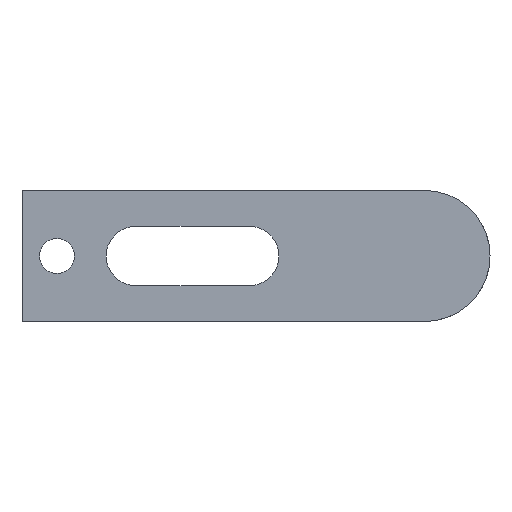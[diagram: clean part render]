
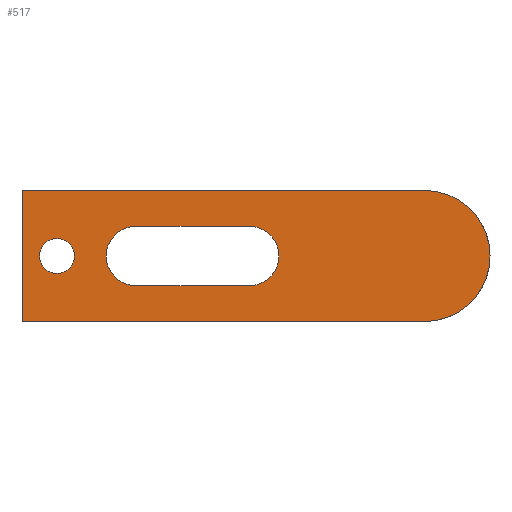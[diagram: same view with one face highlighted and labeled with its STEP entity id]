
A CAD part, front view. The second image highlights one B-rep face of the part: STEP entity #517.
In plain terms, the highlighted planar face has unit normal (0, -1, 0).
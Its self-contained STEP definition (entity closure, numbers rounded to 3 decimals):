
#290=CARTESIAN_POINT('Vertex',(-15.,0.,15.)) ;
#293=CARTESIAN_POINT('Axis2P3D Location',(-15.,0.,0.)) ;
#297=CARTESIAN_POINT('Vertex',(-15.,0.,-15.)) ;
#399=CARTESIAN_POINT('Line Origine',(-61.,0.,15.)) ;
#403=CARTESIAN_POINT('Vertex',(-107.,0.,15.)) ;
#426=CARTESIAN_POINT('Axis2P3D Location',(-107.,0.,15.)) ;
#431=CARTESIAN_POINT('Line Origine',(-61.,0.,-15.)) ;
#435=CARTESIAN_POINT('Vertex',(-107.,0.,-15.)) ;
#438=CARTESIAN_POINT('Line Origine',(-107.,0.,0.)) ;
#449=CARTESIAN_POINT('Axis2P3D Location',(-99.,0.,0.)) ;
#453=CARTESIAN_POINT('Vertex',(-95.,0.,0.)) ;
#455=CARTESIAN_POINT('Vertex',(-99.,0.,-4.)) ;
#458=CARTESIAN_POINT('Axis2P3D Location',(-99.,0.,0.)) ;
#462=CARTESIAN_POINT('Vertex',(-103.,0.,0.)) ;
#465=CARTESIAN_POINT('Axis2P3D Location',(-99.,0.,0.)) ;
#469=CARTESIAN_POINT('Vertex',(-99.,0.,4.)) ;
#472=CARTESIAN_POINT('Axis2P3D Location',(-99.,0.,0.)) ;
#483=CARTESIAN_POINT('Line Origine',(-68.,0.,-6.75)) ;
#487=CARTESIAN_POINT('Vertex',(-55.,0.,-6.75)) ;
#489=CARTESIAN_POINT('Vertex',(-81.,0.,-6.75)) ;
#492=CARTESIAN_POINT('Axis2P3D Location',(-81.,0.,0.)) ;
#496=CARTESIAN_POINT('Vertex',(-81.,0.,6.75)) ;
#499=CARTESIAN_POINT('Line Origine',(-68.,0.,6.75)) ;
#503=CARTESIAN_POINT('Vertex',(-55.,0.,6.75)) ;
#506=CARTESIAN_POINT('Axis2P3D Location',(-55.,0.,0.)) ;
#294=DIRECTION('Axis2P3D Direction',(0.,1.,0.)) ;
#400=DIRECTION('Vector Direction',(1.,0.,0.)) ;
#427=DIRECTION('Axis2P3D Direction',(0.,1.,0.)) ;
#428=DIRECTION('Axis2P3D XDirection',(0.,-0.,1.)) ;
#432=DIRECTION('Vector Direction',(1.,0.,0.)) ;
#439=DIRECTION('Vector Direction',(0.,0.,-1.)) ;
#450=DIRECTION('Axis2P3D Direction',(0.,1.,0.)) ;
#459=DIRECTION('Axis2P3D Direction',(0.,1.,0.)) ;
#466=DIRECTION('Axis2P3D Direction',(0.,1.,0.)) ;
#473=DIRECTION('Axis2P3D Direction',(0.,1.,0.)) ;
#484=DIRECTION('Vector Direction',(-1.,0.,0.)) ;
#493=DIRECTION('Axis2P3D Direction',(0.,1.,0.)) ;
#500=DIRECTION('Vector Direction',(1.,0.,0.)) ;
#507=DIRECTION('Axis2P3D Direction',(0.,1.,0.)) ;
#295=AXIS2_PLACEMENT_3D('Circle Axis2P3D',#293,#294,$) ;
#429=AXIS2_PLACEMENT_3D('Plane Axis2P3D',#426,#427,#428) ;
#451=AXIS2_PLACEMENT_3D('Circle Axis2P3D',#449,#450,$) ;
#460=AXIS2_PLACEMENT_3D('Circle Axis2P3D',#458,#459,$) ;
#467=AXIS2_PLACEMENT_3D('Circle Axis2P3D',#465,#466,$) ;
#474=AXIS2_PLACEMENT_3D('Circle Axis2P3D',#472,#473,$) ;
#494=AXIS2_PLACEMENT_3D('Circle Axis2P3D',#492,#493,$) ;
#508=AXIS2_PLACEMENT_3D('Circle Axis2P3D',#506,#507,$) ;
#444=ORIENTED_EDGE('',*,*,#437,.T.) ;
#445=ORIENTED_EDGE('',*,*,#299,.F.) ;
#446=ORIENTED_EDGE('',*,*,#405,.F.) ;
#447=ORIENTED_EDGE('',*,*,#442,.T.) ;
#478=ORIENTED_EDGE('',*,*,#457,.T.) ;
#479=ORIENTED_EDGE('',*,*,#464,.T.) ;
#480=ORIENTED_EDGE('',*,*,#471,.T.) ;
#481=ORIENTED_EDGE('',*,*,#476,.T.) ;
#512=ORIENTED_EDGE('',*,*,#491,.T.) ;
#513=ORIENTED_EDGE('',*,*,#498,.T.) ;
#514=ORIENTED_EDGE('',*,*,#505,.T.) ;
#515=ORIENTED_EDGE('',*,*,#510,.T.) ;
#482=FACE_BOUND('',#477,.T.) ;
#516=FACE_BOUND('',#511,.T.) ;
#401=VECTOR('Line Direction',#400,1.) ;
#433=VECTOR('Line Direction',#432,1.) ;
#440=VECTOR('Line Direction',#439,1.) ;
#485=VECTOR('Line Direction',#484,1.) ;
#501=VECTOR('Line Direction',#500,1.) ;
#517=ADVANCED_FACE('702-9',(#448,#482,#516),#430,.F.) ;
#296=CIRCLE('generated circle',#295,15.) ;
#452=CIRCLE('generated circle',#451,4.) ;
#461=CIRCLE('generated circle',#460,4.) ;
#468=CIRCLE('generated circle',#467,4.) ;
#475=CIRCLE('generated circle',#474,4.) ;
#495=CIRCLE('generated circle',#494,6.75) ;
#509=CIRCLE('generated circle',#508,6.75) ;
#299=EDGE_CURVE('',#291,#298,#296,.T.) ;
#405=EDGE_CURVE('',#404,#291,#402,.T.) ;
#437=EDGE_CURVE('',#436,#298,#434,.T.) ;
#442=EDGE_CURVE('',#404,#436,#441,.T.) ;
#457=EDGE_CURVE('',#454,#456,#452,.T.) ;
#464=EDGE_CURVE('',#456,#463,#461,.T.) ;
#471=EDGE_CURVE('',#463,#470,#468,.T.) ;
#476=EDGE_CURVE('',#470,#454,#475,.T.) ;
#491=EDGE_CURVE('',#488,#490,#486,.T.) ;
#498=EDGE_CURVE('',#490,#497,#495,.T.) ;
#505=EDGE_CURVE('',#497,#504,#502,.T.) ;
#510=EDGE_CURVE('',#504,#488,#509,.T.) ;
#443=EDGE_LOOP('',(#444,#445,#446,#447)) ;
#477=EDGE_LOOP('',(#478,#479,#480,#481)) ;
#511=EDGE_LOOP('',(#512,#513,#514,#515)) ;
#448=FACE_OUTER_BOUND('',#443,.T.) ;
#402=LINE('Line',#399,#401) ;
#434=LINE('Line',#431,#433) ;
#441=LINE('Line',#438,#440) ;
#486=LINE('Line',#483,#485) ;
#502=LINE('Line',#499,#501) ;
#430=PLANE('Plane',#429) ;
#291=VERTEX_POINT('',#290) ;
#298=VERTEX_POINT('',#297) ;
#404=VERTEX_POINT('',#403) ;
#436=VERTEX_POINT('',#435) ;
#454=VERTEX_POINT('',#453) ;
#456=VERTEX_POINT('',#455) ;
#463=VERTEX_POINT('',#462) ;
#470=VERTEX_POINT('',#469) ;
#488=VERTEX_POINT('',#487) ;
#490=VERTEX_POINT('',#489) ;
#497=VERTEX_POINT('',#496) ;
#504=VERTEX_POINT('',#503) ;
